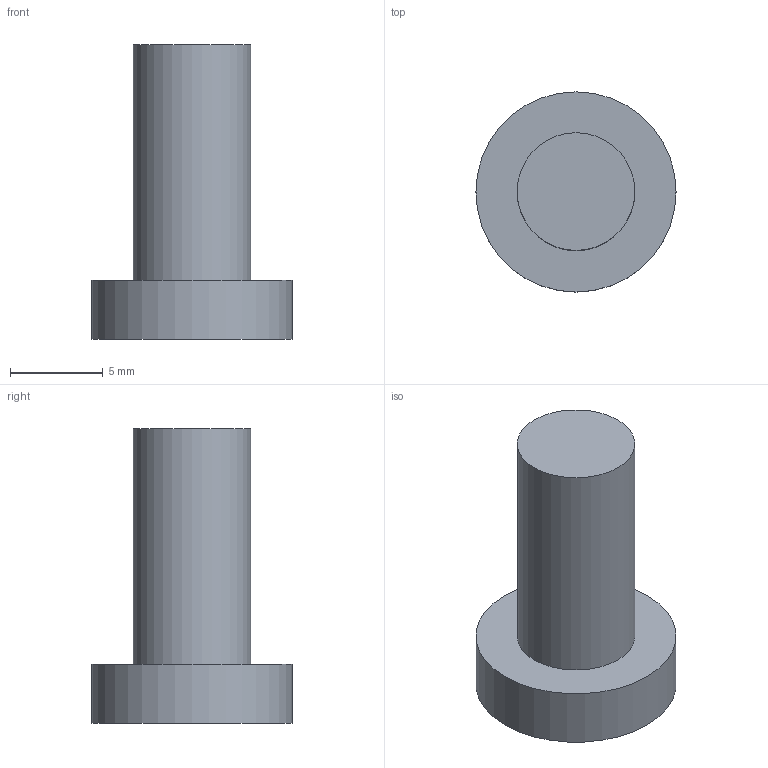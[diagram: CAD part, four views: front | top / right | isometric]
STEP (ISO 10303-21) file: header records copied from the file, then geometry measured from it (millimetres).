
FILE_DESCRIPTION(('Open CASCADE Model'),'2;1');
FILE_NAME('Open CASCADE Shape Model','2026-10-19T15:20:36',('Author'),( 'Open CASCADE'),'Open CASCADE STEP processor 7.9','Open CASCADE 7.9' ,'Unknown');
FILE_SCHEMA(('AUTOMOTIVE_DESIGN { 1 0 10303 214 1 1 1 1 }'));
Length unit declared in the file: millimetre
Products named in the file (1): Open CASCADE STEP translator 7.9 7
Bounding box: 10.8 x 10.8 x 15.9 mm (x, y, z)
Volume: 672.1 mm3; surface area: 568.5 mm2
Topology: 1 solids, 1 shells, 12 faces, 24 edges, 16 vertices
Faces by surface type: plane 10, cylinder 2
Full cylindrical faces by diameter (mm): 6.35 x1, 10.8 x1
Entity records: 622 total; most frequent: CARTESIAN_POINT 113, DIRECTION 90, LINE 52, VECTOR 52, ORIENTED_EDGE 48, PCURVE 48, DEFINITIONAL_REPRESENTATION 48, EDGE_CURVE 24
